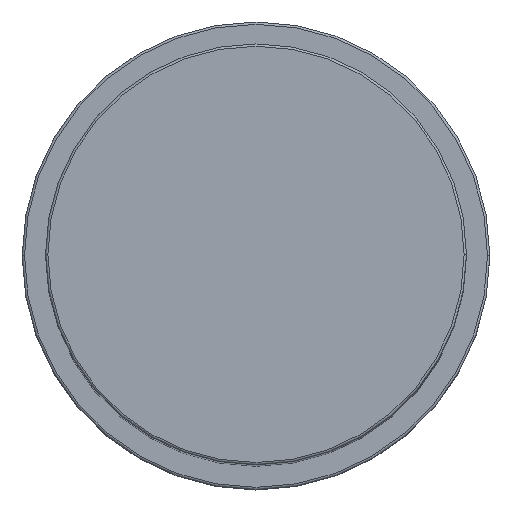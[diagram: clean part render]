
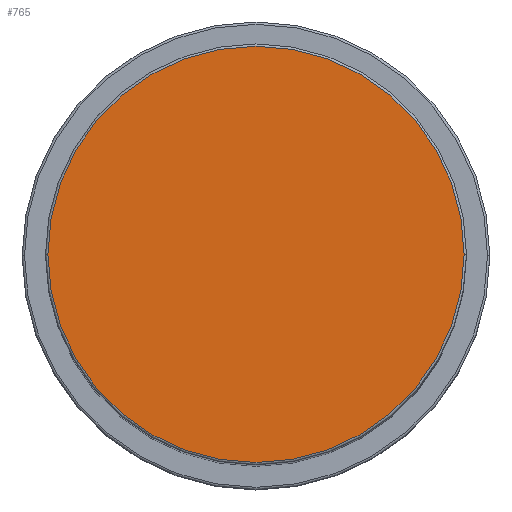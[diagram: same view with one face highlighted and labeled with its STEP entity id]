
A CAD part, top view. The second image highlights one B-rep face of the part: STEP entity #765.
In plain terms, the highlighted planar face has unit normal (0, 0, 1).
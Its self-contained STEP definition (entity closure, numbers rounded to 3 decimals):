
#170 = CARTESIAN_POINT ( 'NONE',  ( 0., 0., 199. ) ) ;
#203 = CIRCLE ( 'NONE', #1431, 44.5 ) ;
#204 = FACE_OUTER_BOUND ( 'NONE', #1118, .T. ) ;
#213 = CARTESIAN_POINT ( 'NONE',  ( 0., 0., 199. ) ) ;
#252 = EDGE_CURVE ( 'NONE', #398, #1171, #203, .T. ) ;
#254 = ORIENTED_EDGE ( 'NONE', *, *, #252, .T. ) ;
#345 = DIRECTION ( 'NONE',  ( 1., 0., 0. ) ) ;
#398 = VERTEX_POINT ( 'NONE', #1581 ) ;
#577 = DIRECTION ( 'NONE',  ( 1., 0., 0. ) ) ;
#765 = ADVANCED_FACE ( 'NONE', ( #204 ), #1694, .T. ) ;
#789 = AXIS2_PLACEMENT_3D ( 'NONE', #213, #1181, #345 ) ;
#961 = EDGE_CURVE ( 'NONE', #1171, #398, #1763, .T. ) ;
#1005 = DIRECTION ( 'NONE',  ( 0., 0., 1. ) ) ;
#1084 = CARTESIAN_POINT ( 'NONE',  ( 44.5, 0., 199. ) ) ;
#1118 = EDGE_LOOP ( 'NONE', ( #1730, #254 ) ) ;
#1119 = CARTESIAN_POINT ( 'NONE',  ( 0., 0., 199. ) ) ;
#1171 = VERTEX_POINT ( 'NONE', #1084 ) ;
#1181 = DIRECTION ( 'NONE',  ( 0., 0., 1. ) ) ;
#1398 = DIRECTION ( 'NONE',  ( 1., 0., 0. ) ) ;
#1431 = AXIS2_PLACEMENT_3D ( 'NONE', #170, #1005, #577 ) ;
#1454 = AXIS2_PLACEMENT_3D ( 'NONE', #1119, #1550, #1398 ) ;
#1550 = DIRECTION ( 'NONE',  ( 0., 0., 1. ) ) ;
#1581 = CARTESIAN_POINT ( 'NONE',  ( -44.5, 0., 199. ) ) ;
#1694 = PLANE ( 'NONE',  #1454 ) ;
#1730 = ORIENTED_EDGE ( 'NONE', *, *, #961, .T. ) ;
#1763 = CIRCLE ( 'NONE', #789, 44.5 ) ;
